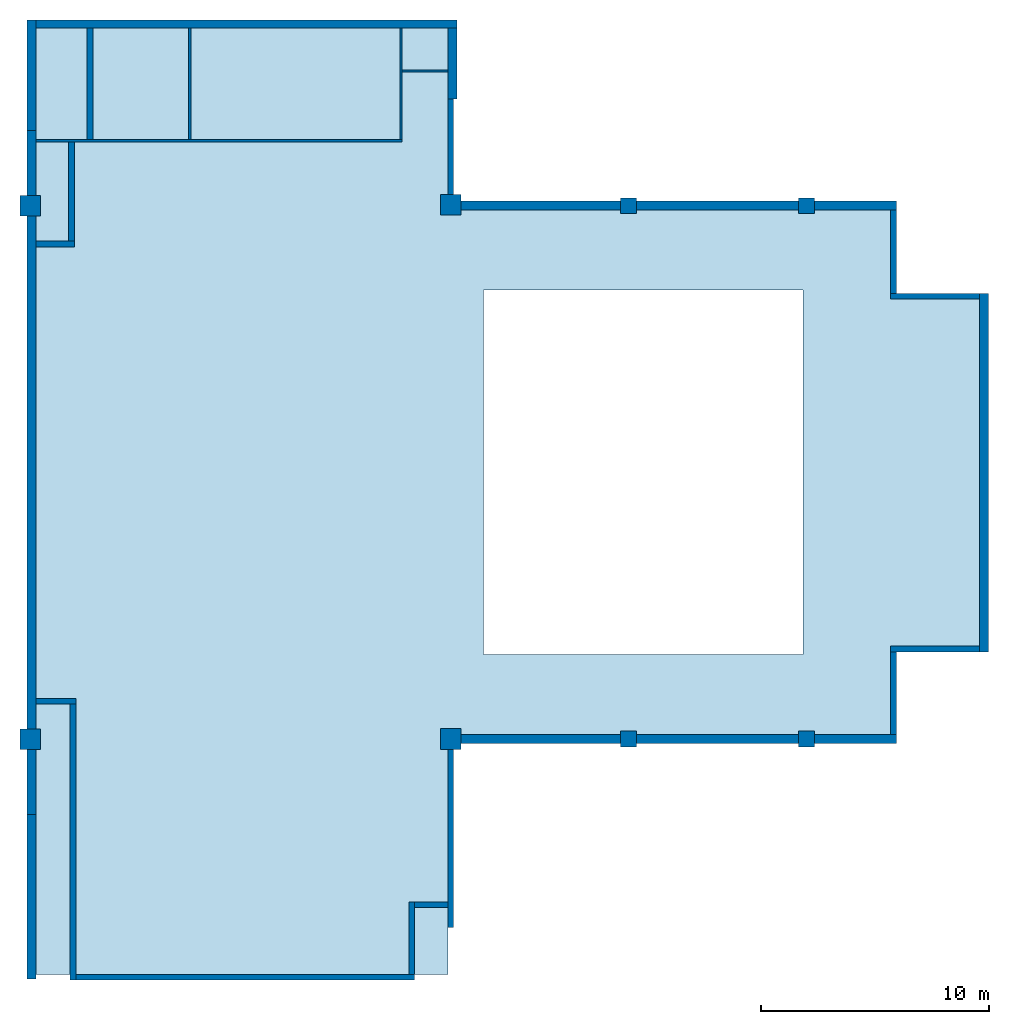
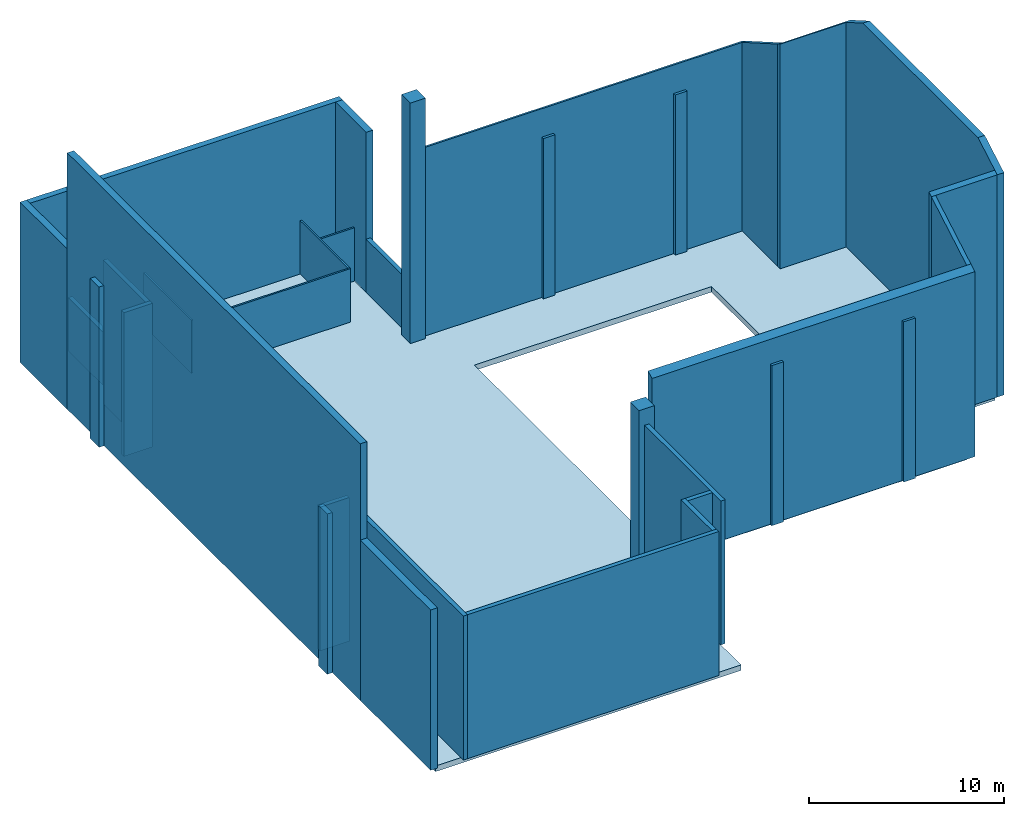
# One storey: 26 walls, 8 columns, 1 slab, 1 opening.
"""IFC2X3 building model written with IfcOpenShell, lengths in millimetres."""

from ifc_helpers import new_model, entity, si_unit, converted_unit, direction, frame, frame_2d, origin, origin_2d_with_axis, place, context, subcontext, project, spatial, polyline, rectangle, outline, extrude, boolean, clip, bounded_halfspace, source, transform, mapped, material, layer, layer_set, layer_usage, type_object, type_shapes, element, save


model = new_model("IFC2X3")

# Units and contexts
model_context = context("Model", 3, precision=0.01, world=origin(), true_north=direction((6.123233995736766e-17, 1.0)))
body_context = subcontext(model_context, "Body", "Model", "MODEL_VIEW")
ifc_project = project(units=[si_unit("LENGTHUNIT", "METRE", prefix="MILLI"), si_unit("AREAUNIT", "SQUARE_METRE"), converted_unit("PLANEANGLEUNIT", "DEGREE", entity("IfcPlaneAngleMeasure", 0.017453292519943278), si_unit("PLANEANGLEUNIT", "RADIAN"), dimensions=[0, 0, 0, 0, 0, 0, 0])], contexts=[model_context])

# Site, building, storey
site_placement = place(None, origin())
site = spatial("IfcSite", under=ifc_project, at=site_placement, Name="Default", CompositionType="ELEMENT")
building_placement = place(site_placement, origin())
building = spatial("IfcBuilding", under=site, at=building_placement, CompositionType="ELEMENT")
storey_placement = place(building_placement, frame((0.0, 0.0, 7050.0)))
storey = spatial("IfcBuildingStorey", under=building, at=storey_placement, Name="2e verdieping", CompositionType="ELEMENT", Elevation=7050.0)

# Columns
ifc_material_1 = material(Name="Concrete, Cast-in-Place gray")
column_type_1 = type_object("IfcColumnType", Name="M_Concrete-Square-Column:900 x 900", PredefinedType="COLUMN", material=ifc_material_1)
shared_shape_1 = source(origin(), body_context, "Body", "SweptSolid", [
    extrude(rectangle(XDim=899.9999999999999, YDim=899.9999999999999, at=origin_2d_with_axis()), frame((0.0, 0.0, 7050.0), z_axis=(0.0, 0.0, 1.0), x_axis=(-1.0, 0.0, 0.0)), (0.0, 0.0, 1.0), 15036.361435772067),
])
type_shapes(column_type_1, [shared_shape_1])
column_placement = place(storey_placement, frame((24936.744931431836, 36284.987417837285, -7050.0)))
element("IfcColumn", 1, at=column_placement, inside=storey, type_object=column_type_1, material=ifc_material_1, Name="M_Concrete-Square-Column:900 x 900", ObjectType="M_Concrete-Square-Column:900 x 900", context=body_context, shape_type="MappedRepresentation", body=[
    mapped(shared_shape_1, transform((0.0, 0.0, 0.0), scale=1.0)),
])
column_type_2 = type_object("IfcColumnType", Name="M_Concrete-Square-Column:900 x 900", PredefinedType="COLUMN", material=ifc_material_1)
shared_shape_2 = source(origin(), body_context, "Body", "SweptSolid", [
    extrude(rectangle(XDim=899.9999999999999, YDim=899.9999999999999, at=origin_2d_with_axis()), frame((0.0, 0.0, 7050.0), z_axis=(0.0, 0.0, 1.0), x_axis=(-1.0, 0.0, 0.0)), (0.0, 0.0, 1.0), 10020.0),
])
type_shapes(column_type_2, [shared_shape_2])
for number, where, name in (
    (2, (24936.744931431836, 12834.987417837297, -7050.0), "M_Concrete-Square-Column:900 x 900"),
    (3, (6486.744931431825, 12831.167906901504, -7050.0), "M_Concrete-Square-Column:900 x 900"),
    (4, (6495.425420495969, 36231.167906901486, -7050.0), "M_Concrete-Square-Column:900 x 900"),
):
    element("IfcColumn", number, at=place(storey_placement, frame(where)), inside=storey, type_object=column_type_2, material=ifc_material_1, Name=name, ObjectType="M_Concrete-Square-Column:900 x 900", context=body_context, shape_type="MappedRepresentation", body=[
        mapped(shared_shape_2, transform((0.0, 0.0, 0.0), scale=1.0)),
    ])
column_type_3 = type_object("IfcColumnType", Name="M_Concrete-Square-Column:700 x 700mm", PredefinedType="COLUMN", material=ifc_material_1)
shared_shape_3 = source(origin(), body_context, "Body", "SweptSolid", [
    extrude(rectangle(XDim=699.9999999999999, YDim=699.9999999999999, at=origin_2d_with_axis()), frame((0.0, 0.0, 7050.0), z_axis=(0.0, 0.0, 1.0), x_axis=(-1.0, 0.0, 0.0)), (0.0, 0.0, 1.0), 10020.0),
])
type_shapes(column_type_3, [shared_shape_3])
for number, where, name in (
    (5, (32739.244931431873, 36231.16790690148, -7050.0), "M_Concrete-Square-Column:700 x 700mm"),
    (6, (40539.2449314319, 36231.16790690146, -7050.0), "M_Concrete-Square-Column:700 x 700mm"),
    (7, (32739.244931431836, 12831.16790690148, -7050.0), "M_Concrete-Square-Column:700 x 700mm"),
    (8, (40539.24493143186, 12831.167906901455, -7050.0), "M_Concrete-Square-Column:700 x 700mm"),
):
    element("IfcColumn", number, at=place(storey_placement, frame(where)), inside=storey, type_object=column_type_3, material=ifc_material_1, Name=name, ObjectType="M_Concrete-Square-Column:700 x 700mm", context=body_context, shape_type="MappedRepresentation", body=[
        mapped(shared_shape_3, transform((0.0, 0.0, 0.0), scale=1.0)),
    ])

# Slab, opening
ifc_material_2 = material(Name="NL_45 Keroewing")
ifc_layer_1 = layer(ifc_material_2, 22.0)
ifc_material_3 = material(Name="NL_45 Multiplex")
ifc_layer_2 = layer(ifc_material_3, 18.0)
ifc_material_4 = material(Name="NL_45 isolatie + regelwerk")
ifc_layer_3 = layer(ifc_material_4, 10.0)
ifc_material_5 = material(Name="NL_23 Kanaalplaatvloer")
ifc_layer_4 = layer(ifc_material_5, 300.0)
ifc_layer_set_1 = layer_set([ifc_layer_1, ifc_layer_2, ifc_layer_3, ifc_layer_4], Name="Floor:NL_23 Toneelvloer")
ifc_layer_usage_1 = layer_usage(ifc_layer_set_1, "AXIS3", "POSITIVE", 0.0)
slab_type = type_object("IfcSlabType", Name="Floor:NL_23 Toneelvloer", PredefinedType="FLOOR", material=ifc_layer_set_1)
slab_placement = place(storey_placement, origin())
slab = element("IfcSlab", 9, at=slab_placement, inside=storey, type_object=slab_type, material=ifc_layer_usage_1, Name="Floor:NL_23 Toneelvloer", ObjectType="Floor:NL_23 Toneelvloer", PredefinedType="FLOOR", context=body_context, shape_type="SweptSolid", body=[
    boolean("DIFFERENCE", extrude(outline(polyline([(-21598.20429715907, -25423.98149262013), (19921.79570284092, -25423.98149262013), (19921.79570284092, -7353.981492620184), (11927.295702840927, -7353.981492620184), (11927.295702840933, 12074.212985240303), (8028.795702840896, 12074.212985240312), (8028.795702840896, 15976.018507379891), (-7200.978514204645, 15976.018507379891), (-7200.978514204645, 12076.712985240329), (-11078.704297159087, 12076.712985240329), (-11078.704297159, -7348.9814926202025), (-21598.20429715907, -7348.9814926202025), (-21598.20429715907, -25423.98149262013)])), frame((32160.726424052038, 24109.372204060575, 0.0), z_axis=(0.0, 0.0, -1.0), x_axis=(0.0, 1.0, 0.0)), (0.0, 0.0, 1.0), 350.00000000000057), extrude(rectangle(XDim=15995.000000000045, YDim=14024.999999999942, at=frame_2d((4.547473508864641e-12, -2.2737367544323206e-12), x_axis=(1.0, 0.0))), frame((33386.744931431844, 24533.667906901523, -350.0), z_axis=(0.0, 0.0, 1.0), x_axis=(0.0, 1.0, 0.0)), (0.0, 0.0, 1.0), 350.00000000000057)),
])
opening_placement = place(slab_placement, origin())
element("IfcOpeningElement", 10, at=opening_placement, cuts=slab, Name="Floor:NL_23 Toneelvloer", ObjectType="Opening", context=body_context, shape_type="SweptSolid", body=[
    extrude(rectangle(XDim=15995.000000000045, YDim=14024.999999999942, at=frame_2d((0.0, -2.2737367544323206e-12), x_axis=(1.0, 0.0))), frame((33386.744931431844, 24533.667906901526, 0.0), z_axis=(0.0, 0.0, -1.0), x_axis=(0.0, -1.0, 0.0)), (0.0, 0.0, 1.0), 350.0),
])

# Walls
ifc_material_6 = material(Name="NL_20_wand")
ifc_layer_5 = layer(ifc_material_6, 400.0)
ifc_layer_set_2 = layer_set([ifc_layer_5], Name="Basic Wall:AL_20_basis_400")
ifc_layer_usage_2 = layer_usage(ifc_layer_set_2, "AXIS2", "NEGATIVE", 200.0)
wall_type_1 = type_object("IfcWallType", Name="Basic Wall:AL_20_basis_400", PredefinedType="STANDARD", material=ifc_layer_set_2)
wall_1_placement = place(storey_placement, frame((25386.74493143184, 36236.66790690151, 0.0)))
element("IfcWallStandardCase", 11, at=wall_1_placement, inside=storey, type_object=wall_type_1, material=ifc_layer_usage_2, Name="Basic Wall:AL_20_basis_400", ObjectType="Basic Wall:AL_20_basis_400", context=body_context, shape_type="Clipping", body=[
    clip(extrude(rectangle(XDim=19098.1944778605, YDim=399.9999999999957, at=frame_2d((9549.09723893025, 0.0), x_axis=(-1.0, 0.0))), origin(), (0.0, 0.0, 1.0), 11800.024501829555), bounded_halfspace(frame((0.0, -200.0, 11800.024501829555), z_axis=(0.0, 0.5000000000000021, 0.8660254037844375), x_axis=(-1.0, 0.0, 0.0)), False, frame((0.0, -200.0, 11800.024501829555)), polyline([(0.0, 0.0), (18848.194477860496, 0.0), (19098.1944778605, 0.0), (19098.1944778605, 400.0), (0.0, 400.0), (0.0, 0.0)]))),
])
ifc_layer_usage_3 = layer_usage(ifc_layer_set_2, "AXIS2", "NEGATIVE", 200.0)
wall_2_placement = place(storey_placement, frame((48336.744931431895, 32388.167906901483, 0.0), z_axis=(0.0, 0.0, 1.0), x_axis=(0.0, -1.0, 0.0)))
element("IfcWallStandardCase", 12, at=wall_2_placement, inside=storey, type_object=wall_type_1, material=ifc_layer_usage_3, Name="Basic Wall:AL_20_basis_400", ObjectType="Basic Wall:AL_20_basis_400", context=body_context, shape_type="Clipping", body=[
    clip(clip(extrude(rectangle(XDim=15729.774217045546, YDim=399.9999999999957, at=frame_2d((7864.887108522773, 0.0), x_axis=(-1.0, 0.0))), origin(), (0.0, 0.0, 1.0), 15036.361435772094), bounded_halfspace(frame((13757.0, -200.0, 15036.361435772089), z_axis=(0.499999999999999, 0.0, 0.8660254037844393), x_axis=(0.0, 1.0, 0.0)), False, frame((13757.0, -200.0, 15036.361435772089)), polyline([(0.0, 0.0), (1722.7742170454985, 0.0), (1972.7742170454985, 0.0), (1972.7742170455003, 400.0), (0.0, 400.0), (0.0, 0.0)]))), bounded_halfspace(frame((0.0, -200.0, 13906.486958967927), z_axis=(-0.5000000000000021, 0.0, 0.8660254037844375), x_axis=(0.0, -1.0, 0.0)), False, frame((0.0, -200.0, 13906.486958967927)), polyline([(0.0, 0.0), (250.0, 0.0), (1957.0, 0.0), (1957.0, 400.0), (0.0, 400.0), (0.0, 0.0)]))),
])
ifc_layer_usage_4 = layer_usage(ifc_layer_set_2, "AXIS2", "POSITIVE", -200.0)
wall_3_placement = place(storey_placement, frame((25386.744931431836, 12830.667906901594, 0.0)))
element("IfcWallStandardCase", 13, at=wall_3_placement, inside=storey, type_object=wall_type_1, material=ifc_layer_usage_4, Name="Basic Wall:AL_20_basis_400", ObjectType="Basic Wall:AL_20_basis_400", context=body_context, shape_type="Clipping", body=[
    clip(extrude(rectangle(XDim=19100.69447786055, YDim=400.0, at=frame_2d((9550.347238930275, -2.984279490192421e-13), x_axis=(-1.0, 0.0))), origin(), (0.0, 0.0, 1.0), 11802.911253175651), bounded_halfspace(frame((0.0, -200.0, 11571.971145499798), z_axis=(0.0, -0.499999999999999, 0.8660254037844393), x_axis=(1.0, 0.0, 0.0)), False, frame((0.0, -200.0, 11571.971145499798)), polyline([(0.0, 0.0), (19100.694477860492, 0.0), (19100.694477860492, 400.0), (18850.69447786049, 400.0), (0.0, 400.0), (0.0, 0.0)]))),
])
ifc_layer_usage_5 = layer_usage(ifc_layer_set_2, "AXIS2", "NEGATIVE", 200.0)
wall_4_placement = place(storey_placement, frame((6536.744931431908, 2306.1679069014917, 0.0), z_axis=(0.0, 0.0, 1.0), x_axis=(0.0, 1.0, 0.0)))
element("IfcWallStandardCase", 14, at=wall_4_placement, inside=storey, type_object=wall_type_1, material=ifc_layer_usage_5, Name="Basic Wall:AL_20_basis_400", ObjectType="Basic Wall:AL_20_basis_400", context=body_context, shape_type="SweptSolid", body=[
    extrude(rectangle(XDim=7214.000000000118, YDim=400.0, at=frame_2d((3607.000000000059, 0.0), x_axis=(-1.0, 0.0))), origin(), (0.0, 0.0, 1.0), 10020.0),
])
ifc_layer_usage_6 = layer_usage(ifc_layer_set_2, "AXIS2", "NEGATIVE", 200.0)
wall_5_placement = place(storey_placement, frame((25011.744931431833, 44031.1679069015, 0.0), z_axis=(0.0, 0.0, 1.0), x_axis=(0.0, -1.0, 0.0)))
element("IfcWallStandardCase", 15, at=wall_5_placement, inside=storey, type_object=wall_type_1, material=ifc_layer_usage_6, Name="Basic Wall:AL_20_basis_400", ObjectType="Basic Wall:AL_20_basis_400", context=body_context, shape_type="SweptSolid", body=[
    extrude(rectangle(XDim=3120.000000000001, YDim=399.9999999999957, at=frame_2d((1560.0000000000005, 0.0), x_axis=(-1.0, 0.0))), origin(), (0.0, 0.0, 1.0), 10020.0),
])
ifc_layer_usage_7 = layer_usage(ifc_layer_set_2, "AXIS2", "NEGATIVE", 200.0)
wall_6_placement = place(storey_placement, frame((6536.744931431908, 39542.16790690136, 0.0), z_axis=(0.0, 0.0, 1.0), x_axis=(0.0, 1.0, 0.0)))
element("IfcWallStandardCase", 16, at=wall_6_placement, inside=storey, type_object=wall_type_1, material=ifc_layer_usage_7, Name="Basic Wall:AL_20_basis_400", ObjectType="Basic Wall:AL_20_basis_400", context=body_context, shape_type="SweptSolid", body=[
    extrude(rectangle(XDim=4839.000000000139, YDim=400.0, at=frame_2d((2419.5000000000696, 0.0), x_axis=(-1.0, 0.0))), origin(), (0.0, 0.0, 1.0), 10020.0),
])
ifc_layer_usage_8 = layer_usage(ifc_layer_set_2, "AXIS2", "NEGATIVE", 200.0)
wall_7_placement = place(storey_placement, frame((6536.744931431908, 9520.16790690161, 0.0), z_axis=(0.0, 0.0, 1.0), x_axis=(0.0, 1.0, 0.0)))
element("IfcWallStandardCase", 17, at=wall_7_placement, inside=storey, type_object=wall_type_1, material=ifc_layer_usage_8, Name="Basic Wall:AL_20_basis_400", ObjectType="Basic Wall:AL_20_basis_400", context=body_context, shape_type="SweptSolid", body=[
    extrude(rectangle(XDim=30021.99999999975, YDim=400.0, at=frame_2d((15010.999999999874, 0.0), x_axis=(-1.0, 0.0))), origin(), (0.0, 0.0, 1.0), 16040.0),
])
ifc_layer_6 = layer(ifc_material_6, 250.00000000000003)
ifc_layer_set_3 = layer_set([ifc_layer_6], Name="Basic Wall:AL_20_basis_250")
ifc_layer_usage_9 = layer_usage(ifc_layer_set_3, "AXIS2", "NEGATIVE", 125.00000000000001)
wall_type_2 = type_object("IfcWallType", Name="Basic Wall:AL_20_basis_250", PredefinedType="STANDARD", material=ifc_layer_set_3)
wall_8_placement = place(storey_placement, frame((44234.93940929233, 32263.167906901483, 0.0)))
element("IfcWallStandardCase", 18, at=wall_8_placement, inside=storey, type_object=wall_type_2, material=ifc_layer_usage_9, Name="Basic Wall:AL_20_basis_250", ObjectType="Basic Wall:AL_20_basis_250", context=body_context, shape_type="Clipping", body=[
    clip(extrude(rectangle(XDim=3901.8055221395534, YDim=250.0000000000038, at=frame_2d((1950.9027610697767, 0.0), x_axis=(-1.0, 0.0))), origin(), (0.0, 0.0, 1.0), 14050.824526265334), bounded_halfspace(frame((0.0, -125.0, 14050.824526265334), z_axis=(0.0, 0.5000000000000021, 0.8660254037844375), x_axis=(-1.0, 0.0, 0.0)), False, frame((0.0, -125.0, 14050.824526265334)), polyline([(0.0, 0.0), (3901.8055221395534, 0.0), (3901.8055221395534, 250.0), (250.0, 250.0), (0.0, 250.0), (0.0, 0.0)]))),
])
ifc_layer_usage_10 = layer_usage(ifc_layer_set_3, "AXIS2", "NEGATIVE", 125.00000000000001)
wall_9_placement = place(storey_placement, frame((44359.93940929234, 36036.6679069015, 0.0), z_axis=(0.0, 0.0, 1.0), x_axis=(0.0, -1.0, 0.0)))
element("IfcWallStandardCase", 19, at=wall_9_placement, inside=storey, type_object=wall_type_2, material=ifc_layer_usage_10, Name="Basic Wall:AL_20_basis_250", ObjectType="Basic Wall:AL_20_basis_250", context=body_context, shape_type="Clipping", body=[
    clip(extrude(rectangle(XDim=3648.5000000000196, YDim=249.99999999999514, at=frame_2d((1824.2500000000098, 0.0), x_axis=(-1.0, 0.0))), origin(), (0.0, 0.0, 1.0), 13906.486958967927), bounded_halfspace(frame((0.0, -125.0, 11800.024501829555), z_axis=(-0.5000000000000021, 0.0, 0.8660254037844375), x_axis=(0.0, -1.0, 0.0)), False, frame((0.0, -125.0, 11800.024501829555)), polyline([(0.0, 0.0), (3648.5000000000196, 0.0), (3648.5000000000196, 250.0), (0.0, 250.0), (0.0, 0.0)]))),
])
ifc_layer_usage_11 = layer_usage(ifc_layer_set_3, "AXIS2", "POSITIVE", -125.00000000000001)
wall_10_placement = place(storey_placement, frame((44237.43940929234, 16783.393689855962, 0.0)))
element("IfcWallStandardCase", 20, at=wall_10_placement, inside=storey, type_object=wall_type_2, material=ifc_layer_usage_11, Name="Basic Wall:AL_20_basis_250", ObjectType="Basic Wall:AL_20_basis_250", context=body_context, shape_type="Clipping", body=[
    clip(extrude(rectangle(XDim=3899.3055221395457, YDim=249.9999999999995, at=frame_2d((1949.6527610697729, 6.252776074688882e-13), x_axis=(-1.0, 0.0))), origin(), (0.0, 0.0, 1.0), 14041.71727780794), bounded_halfspace(frame((0.0, -125.0, 13897.379710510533), z_axis=(0.0, -0.499999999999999, 0.8660254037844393), x_axis=(1.0, 0.0, 0.0)), False, frame((0.0, -125.0, 13897.379710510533)), polyline([(0.0, 0.0), (250.0, 0.0), (3899.3055221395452, 0.0), (3899.3055221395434, 250.0), (0.0, 250.0), (0.0, 0.0)]))),
])
ifc_layer_usage_12 = layer_usage(ifc_layer_set_3, "AXIS2", "POSITIVE", -125.00000000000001)
wall_11_placement = place(storey_placement, frame((44362.439409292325, 13030.66790690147, 0.0), z_axis=(0.0, 0.0, 1.0), x_axis=(0.0, 1.0, 0.0)))
element("IfcWallStandardCase", 21, at=wall_11_placement, inside=storey, type_object=wall_type_2, material=ifc_layer_usage_12, Name="Basic Wall:AL_20_basis_250", ObjectType="Basic Wall:AL_20_basis_250", context=body_context, shape_type="Clipping", body=[
    clip(extrude(rectangle(XDim=3627.7257829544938, YDim=249.99999999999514, at=frame_2d((1813.8628914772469, 3.0055957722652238e-12), x_axis=(-1.0, 0.0))), origin(), (0.0, 0.0, 1.0), 13897.379710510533), bounded_halfspace(frame((0.0, -125.0, 11802.911253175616), z_axis=(-0.499999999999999, 0.0, 0.8660254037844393), x_axis=(0.0, -1.0, 0.0)), False, frame((0.0, -125.0, 11802.911253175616)), polyline([(0.0, 0.0), (3627.7257829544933, 0.0), (3627.725782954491, 250.0), (0.0, 250.0), (0.0, 0.0)]))),
])
ifc_layer_usage_13 = layer_usage(ifc_layer_set_3, "AXIS2", "POSITIVE", -125.00000000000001)
wall_12_placement = place(storey_placement, frame((24936.744931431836, 4569.219407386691, 0.0), z_axis=(0.0, 0.0, 1.0), x_axis=(0.0, 1.0, 0.0)))
element("IfcWallStandardCase", 22, at=wall_12_placement, inside=storey, type_object=wall_type_2, material=ifc_layer_usage_13, Name="Basic Wall:AL_20_basis_250", ObjectType="Basic Wall:AL_20_basis_250", context=body_context, shape_type="SweptSolid", body=[
    extrude(rectangle(XDim=7811.948499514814, YDim=250.0000000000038, at=frame_2d((3905.974249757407, 0.0), x_axis=(-1.0, 0.0))), origin(), (0.0, 0.0, 1.0), 9000.0),
])
ifc_layer_usage_14 = layer_usage(ifc_layer_set_3, "AXIS2", "NEGATIVE", 125.00000000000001)
wall_13_placement = place(storey_placement, frame((24931.744931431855, 40911.1679069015, 0.0), z_axis=(0.0, 0.0, 1.0), x_axis=(0.0, -1.0, 0.0)))
element("IfcWallStandardCase", 23, at=wall_13_placement, inside=storey, type_object=wall_type_2, material=ifc_layer_usage_14, Name="Basic Wall:AL_20_basis_250", ObjectType="Basic Wall:AL_20_basis_250", context=body_context, shape_type="SweptSolid", body=[
    extrude(rectangle(XDim=4180.000000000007, YDim=250.0000000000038, at=frame_2d((2090.0000000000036, 0.0), x_axis=(-1.0, 0.0))), origin(), (0.0, 0.0, 1.0), 3340.000000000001),
])
ifc_layer_7 = layer(ifc_material_6, 350.0)
ifc_layer_set_4 = layer_set([ifc_layer_7], Name="Basic Wall:AL_20_basis_350")
ifc_layer_usage_15 = layer_usage(ifc_layer_set_4, "AXIS2", "NEGATIVE", 175.0)
wall_type_3 = type_object("IfcWallType", Name="Basic Wall:AL_20_basis_350", PredefinedType="STANDARD", material=ifc_layer_set_4)
wall_14_placement = place(storey_placement, frame((6736.744931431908, 44206.16790690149, 0.0)))
element("IfcWallStandardCase", 24, at=wall_14_placement, inside=storey, type_object=wall_type_3, material=ifc_layer_usage_15, Name="Basic Wall:AL_20_basis_350", ObjectType="Basic Wall:AL_20_basis_350", context=body_context, shape_type="SweptSolid", body=[
    extrude(rectangle(XDim=18474.999999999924, YDim=350.00000000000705, at=frame_2d((9237.499999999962, 0.0), x_axis=(-1.0, 0.0))), origin(), (0.0, 0.0, 1.0), 10020.0),
])
ifc_layer_8 = layer(ifc_material_6, 250.00000000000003)
ifc_layer_set_5 = layer_set([ifc_layer_8], Name="Basic Wall:AL_20_basis_220")
ifc_layer_usage_16 = layer_usage(ifc_layer_set_5, "AXIS2", "NEGATIVE", 125.00000000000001)
wall_type_4 = type_object("IfcWallType", Name="Basic Wall:AL_20_basis_220", PredefinedType="STANDARD", material=ifc_layer_set_5)
wall_15_placement = place(storey_placement, frame((8489.244931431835, 14486.1679069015, 0.0), z_axis=(0.0, 0.0, 1.0), x_axis=(-1.0, 0.0, 0.0)))
element("IfcWallStandardCase", 25, at=wall_15_placement, inside=storey, type_object=wall_type_4, material=ifc_layer_usage_16, Name="Basic Wall:AL_20_basis_220", ObjectType="Basic Wall:AL_20_basis_220", context=body_context, shape_type="SweptSolid", body=[
    extrude(rectangle(XDim=1752.4999999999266, YDim=249.9999999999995, at=frame_2d((876.2499999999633, 0.0), x_axis=(-1.0, 0.0))), origin(), (0.0, 0.0, 1.0), 9000.0),
])
ifc_layer_usage_17 = layer_usage(ifc_layer_set_5, "AXIS2", "NEGATIVE", 125.00000000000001)
wall_16_placement = place(storey_placement, frame((8364.244931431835, 2261.1679069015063, 0.0), z_axis=(0.0, 0.0, 1.0), x_axis=(0.0, 1.0, 0.0)))
element("IfcWallStandardCase", 26, at=wall_16_placement, inside=storey, type_object=wall_type_4, material=ifc_layer_usage_17, Name="Basic Wall:AL_20_basis_220", ObjectType="Basic Wall:AL_20_basis_220", context=body_context, shape_type="SweptSolid", body=[
    extrude(rectangle(XDim=12099.999999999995, YDim=249.9999999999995, at=frame_2d((6049.999999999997, 0.0), x_axis=(-1.0, 0.0))), origin(), (0.0, 0.0, 1.0), 9000.0),
])
ifc_layer_usage_18 = layer_usage(ifc_layer_set_5, "AXIS2", "NEGATIVE", 125.00000000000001)
wall_17_placement = place(storey_placement, frame((23351.744931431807, 2386.167906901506, 0.0), z_axis=(0.0, 0.0, 1.0), x_axis=(-1.0, 0.0, 0.0)))
element("IfcWallStandardCase", 27, at=wall_17_placement, inside=storey, type_object=wall_type_4, material=ifc_layer_usage_18, Name="Basic Wall:AL_20_basis_220", ObjectType="Basic Wall:AL_20_basis_220", context=body_context, shape_type="SweptSolid", body=[
    extrude(rectangle(XDim=14862.499999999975, YDim=250.00000000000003, at=frame_2d((7431.249999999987, 0.0), x_axis=(-1.0, 0.0))), origin(), (0.0, 0.0, 1.0), 9000.0),
])
ifc_layer_usage_19 = layer_usage(ifc_layer_set_5, "AXIS2", "POSITIVE", -125.00000000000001)
wall_18_placement = place(storey_placement, frame((23226.74493143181, 2511.167906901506, 0.0), z_axis=(0.0, 0.0, 1.0), x_axis=(0.0, 1.0, 0.0)))
element("IfcWallStandardCase", 28, at=wall_18_placement, inside=storey, type_object=wall_type_4, material=ifc_layer_usage_19, Name="Basic Wall:AL_20_basis_220", ObjectType="Basic Wall:AL_20_basis_220", context=body_context, shape_type="SweptSolid", body=[
    extrude(rectangle(XDim=3175.999999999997, YDim=250.0000000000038, at=frame_2d((1587.9999999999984, 0.0), x_axis=(-1.0, 0.0))), origin(), (0.0, 0.0, 1.0), 9000.0),
])
ifc_layer_usage_20 = layer_usage(ifc_layer_set_5, "AXIS2", "NEGATIVE", 125.00000000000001)
wall_19_placement = place(storey_placement, frame((24811.744931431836, 5562.167906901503, 0.0), z_axis=(0.0, 0.0, 1.0), x_axis=(-1.0, 0.0, 0.0)))
element("IfcWallStandardCase", 29, at=wall_19_placement, inside=storey, type_object=wall_type_4, material=ifc_layer_usage_20, Name="Basic Wall:AL_20_basis_220", ObjectType="Basic Wall:AL_20_basis_220", context=body_context, shape_type="SweptSolid", body=[
    extrude(rectangle(XDim=1460.0000000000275, YDim=249.9999999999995, at=frame_2d((730.0000000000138, 0.0), x_axis=(-1.0, 0.0))), origin(), (0.0, 0.0, 1.0), 9000.0),
])
ifc_layer_usage_21 = layer_usage(ifc_layer_set_5, "AXIS2", "NEGATIVE", 125.00000000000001)
wall_20_placement = place(storey_placement, frame((6736.744931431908, 34551.66790690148, 0.0)))
element("IfcWallStandardCase", 30, at=wall_20_placement, inside=storey, type_object=wall_type_4, material=ifc_layer_usage_21, Name="Basic Wall:AL_20_basis_220", ObjectType="Basic Wall:AL_20_basis_220", context=body_context, shape_type="SweptSolid", body=[
    extrude(rectangle(XDim=1684.9999999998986, YDim=250.0000000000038, at=frame_2d((842.4999999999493, 0.0), x_axis=(-1.0, 0.0))), origin(), (0.0, 0.0, 1.0), 9000.0),
])
ifc_layer_usage_22 = layer_usage(ifc_layer_set_5, "AXIS2", "NEGATIVE", 125.00000000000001)
wall_21_placement = place(storey_placement, frame((8296.744931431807, 34676.66790690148, 0.0), z_axis=(0.0, 0.0, 1.0), x_axis=(0.0, 1.0, 0.0)))
element("IfcWallStandardCase", 31, at=wall_21_placement, inside=storey, type_object=wall_type_4, material=ifc_layer_usage_22, Name="Basic Wall:AL_20_basis_220", ObjectType="Basic Wall:AL_20_basis_220", context=body_context, shape_type="SweptSolid", body=[
    extrude(rectangle(XDim=4354.500000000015, YDim=249.9999999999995, at=frame_2d((2177.2500000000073, 0.0), x_axis=(-1.0, 0.0))), origin(), (0.0, 0.0, 1.0), 9000.0),
])
ifc_layer_usage_23 = layer_usage(ifc_layer_set_5, "AXIS2", "POSITIVE", -125.00000000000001)
wall_22_placement = place(storey_placement, frame((9111.744931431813, 44031.1679069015, 0.0), z_axis=(0.0, 0.0, 1.0), x_axis=(0.0, -1.0, 0.0)))
element("IfcWallStandardCase", 32, at=wall_22_placement, inside=storey, type_object=wall_type_4, material=ifc_layer_usage_23, Name="Basic Wall:AL_20_basis_220", ObjectType="Basic Wall:AL_20_basis_220", context=body_context, shape_type="SweptSolid", body=[
    extrude(rectangle(XDim=4900.000000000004, YDim=249.9999999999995, at=frame_2d((2450.000000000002, 0.0), x_axis=(-1.0, 0.0))), origin(), (0.0, 0.0, 1.0), 3340.000000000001),
])
ifc_layer_9 = layer(ifc_material_6, 100.0)
ifc_layer_set_6 = layer_set([ifc_layer_9], Name="Basic Wall:AL_20_basis_100")
ifc_layer_usage_24 = layer_usage(ifc_layer_set_6, "AXIS2", "POSITIVE", -50.0)
wall_type_5 = type_object("IfcWallType", Name="Basic Wall:AL_20_basis_100", PredefinedType="STANDARD", material=ifc_layer_set_6)
wall_23_placement = place(storey_placement, frame((22806.74493143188, 39081.16790690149, 0.0), z_axis=(0.0, 0.0, 1.0), x_axis=(-1.0, 0.0, 0.0)))
element("IfcWallStandardCase", 33, at=wall_23_placement, inside=storey, type_object=wall_type_5, material=ifc_layer_usage_24, Name="Basic Wall:AL_20_basis_100", ObjectType="Basic Wall:AL_20_basis_100", context=body_context, shape_type="SweptSolid", body=[
    extrude(rectangle(XDim=16069.999999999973, YDim=99.99999999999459, at=frame_2d((8034.999999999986, 0.0), x_axis=(-1.0, 0.0))), origin(), (0.0, 0.0, 1.0), 3340.000000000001),
])
ifc_layer_usage_25 = layer_usage(ifc_layer_set_6, "AXIS2", "NEGATIVE", 50.0)
wall_24_placement = place(storey_placement, frame((13486.744931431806, 39131.16790690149, 0.0), z_axis=(0.0, 0.0, 1.0), x_axis=(0.0, 1.0, 0.0)))
element("IfcWallStandardCase", 34, at=wall_24_placement, inside=storey, type_object=wall_type_5, material=ifc_layer_usage_25, Name="Basic Wall:AL_20_basis_100", ObjectType="Basic Wall:AL_20_basis_100", context=body_context, shape_type="SweptSolid", body=[
    extrude(rectangle(XDim=4900.000000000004, YDim=99.99999999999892, at=frame_2d((2450.000000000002, 0.0), x_axis=(-1.0, 0.0))), origin(), (0.0, 0.0, 1.0), 3340.000000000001),
])
ifc_layer_usage_26 = layer_usage(ifc_layer_set_6, "AXIS2", "NEGATIVE", 50.0)
wall_25_placement = place(storey_placement, frame((22756.744931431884, 39131.16790690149, 0.0), z_axis=(0.0, 0.0, 1.0), x_axis=(0.0, 1.0, 0.0)))
element("IfcWallStandardCase", 35, at=wall_25_placement, inside=storey, type_object=wall_type_5, material=ifc_layer_usage_26, Name="Basic Wall:AL_20_basis_100", ObjectType="Basic Wall:AL_20_basis_100", context=body_context, shape_type="SweptSolid", body=[
    extrude(rectangle(XDim=4900.000000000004, YDim=100.00000000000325, at=frame_2d((2450.000000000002, 0.0), x_axis=(-1.0, 0.0))), origin(), (0.0, 0.0, 1.0), 3340.000000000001),
])
ifc_layer_usage_27 = layer_usage(ifc_layer_set_6, "AXIS2", "NEGATIVE", 50.0)
wall_26_placement = place(storey_placement, frame((24811.744931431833, 42141.66790690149, 0.0), z_axis=(0.0, 0.0, 1.0), x_axis=(-1.0, 0.0, 0.0)))
element("IfcWallStandardCase", 36, at=wall_26_placement, inside=storey, type_object=wall_type_5, material=ifc_layer_usage_27, Name="Basic Wall:AL_20_basis_100", ObjectType="Basic Wall:AL_20_basis_100", context=body_context, shape_type="SweptSolid", body=[
    extrude(rectangle(XDim=2004.9999999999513, YDim=99.99999999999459, at=frame_2d((1002.4999999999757, 0.0), x_axis=(-1.0, 0.0))), origin(), (0.0, 0.0, 1.0), 3340.000000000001),
])

save(model, "model.ifc")
